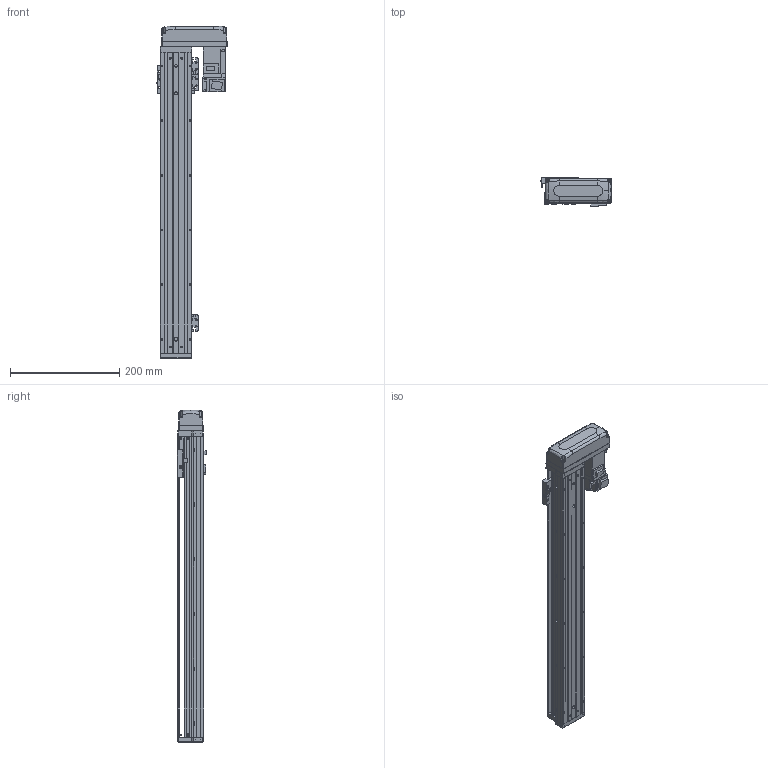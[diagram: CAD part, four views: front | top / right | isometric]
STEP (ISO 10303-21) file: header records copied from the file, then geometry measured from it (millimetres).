
FILE_DESCRIPTION (( 'STEP AP203' ), '1' );
FILE_NAME ('KTHA50-450-BL-M10-C4L.step', '2022-03-19T07:06:37', ( '微软用户' ), ( '微软中国' ), 'SwSTEP 2.0', 'SolidWorks 2020', '' );
FILE_SCHEMA (( 'CONFIG_CONTROL_DESIGN' ));
Length unit declared in the file: millimetre
Products named in the file (18): GBT 70.1-M4×12; KTHA50-005; CTHA60-016; GB¨uT 70.2-M3¡Á6_M3¡Á6; CTHA60-021; EE_SX911P_R; GBT 70.3-M3℅6; GBT77-2000 M3×3; HG-KR13（三菱）; KTHA50-001_550; CTHA60-033; GBT 70.1-M3℅6; CTHA50-015-2_CTHA60-015-2; KTHA50-002; GBT 70.1-M3×15; CTHA60-017; KTHA50-004; KTHA50-450-BL-M10-C4L
Assembly tree (53 placements, depth 2):
  KTHA50-450-BL-M10-C4L
    KTHA50-001_550
    KTHA50-002
    KTHA50-004
    KTHA50-005
    GB¨uT 70.2-M3¡Á6_M3¡Á6  x6
    EE_SX911P_R  x3
    GBT77-2000 M3×3  x6
    GBT 70.1-M3℅6  x6
    CTHA60-017  x3
    GBT 70.1-M4×12  x10
    CTHA60-016  x2
    CTHA60-021  x2
    GBT 70.3-M3℅6  x4
    HG-KR13（三菱）
    CTHA50-015-2_CTHA60-015-2
    CTHA60-033
    GBT 70.1-M3×15  x4
Bounding box: 128.4 x 53.3 x 607 mm (x, y, z)
Volume: 1264752.9 mm3; surface area: 310136.5 mm2
Topology: 56 solids, 56 shells, 2263 faces, 5351 edges, 3280 vertices
Faces by surface type: plane 1264, cylinder 550, cone 307, torus 100, bspline 26, sphere 16
Entity records: 38235 total; most frequent: CARTESIAN_POINT 7234, DIRECTION 5965, ORIENTED_EDGE 5714, EDGE_CURVE 2857, AXIS2_PLACEMENT_3D 2027, LINE 1911, VECTOR 1911, VERTEX_POINT 1794
